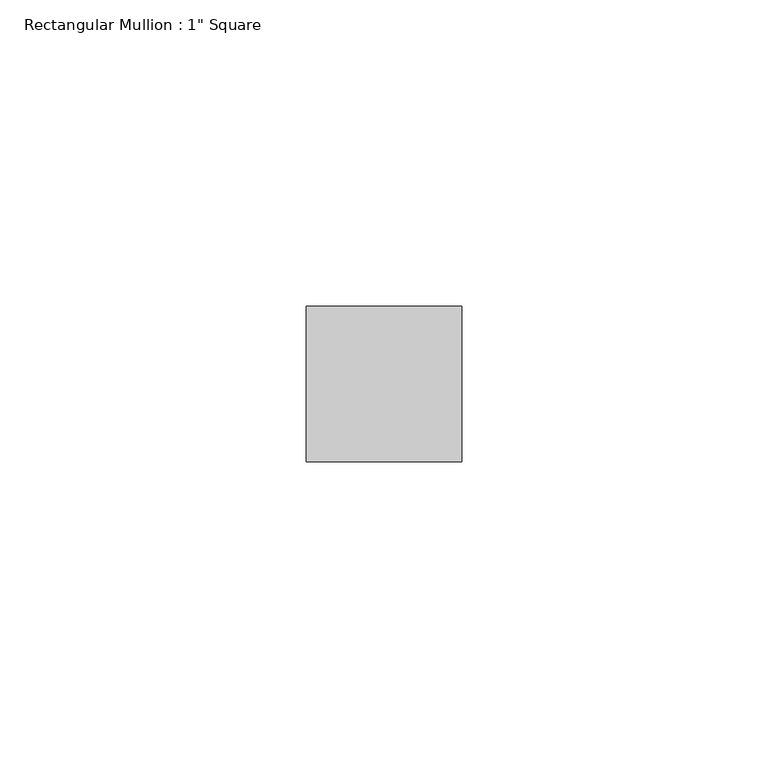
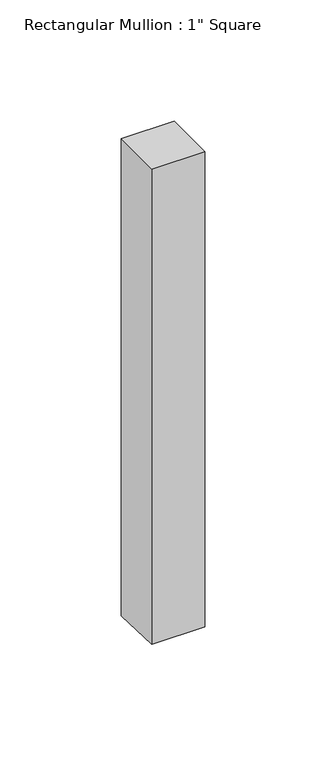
"""IFC4 building model written with IfcOpenShell, lengths in millimetres: member geometry."""

from ifc_helpers import new_model, si_unit, origin, place, context, project, spatial, faceted_brep, source, transform, mapped, element, save


def member_916b48e0(model_context):
    return source(origin(), model_context, "Body", "Brep", [
        faceted_brep([(0.0, 12.7, 0.0), (-25.4, 12.7, 0.0), (-25.4, -12.7, 0.0), (0.0, -12.7, 0.0), (0.0, 12.7, -241.0332606), (-25.4, 12.7, -240.9883599), (-25.4, -12.7, -239.9320229), (0.0, -12.7, -239.9769237)], [[[0, 1, 2, 3]], [[1, 0, 4, 5]], [[2, 1, 5, 6]], [[3, 2, 6, 7]], [[0, 3, 7, 4]], [[4, 7, 6, 5]]]),
    ])


if __name__ == "__main__":
    model = new_model("IFC4")
    model_context = context("Model", 3, world=origin())
    ifc_project = project(units=[si_unit("LENGTHUNIT", "METRE", prefix="MILLI")], contexts=[model_context])
    site = spatial("IfcSite", under=ifc_project)
    building = spatial("IfcBuilding", under=site)
    placement = place(None, origin())
    member_shape = member_916b48e0(model_context)
    element("IfcMember", 1, ObjectType="Rectangular Mullion : 1\" Square", at=placement, inside=building, context=model_context, shape_type="MappedRepresentation", body=[
        mapped(member_shape, transform((0.0, 0.0, 0.0), x_axis=(1.0, 0.0, 0.0), y_axis=(0.0, 1.0, 0.0), z_axis=(0.0, 0.0, 1.0))),
    ])
    save(model, "model.ifc")
